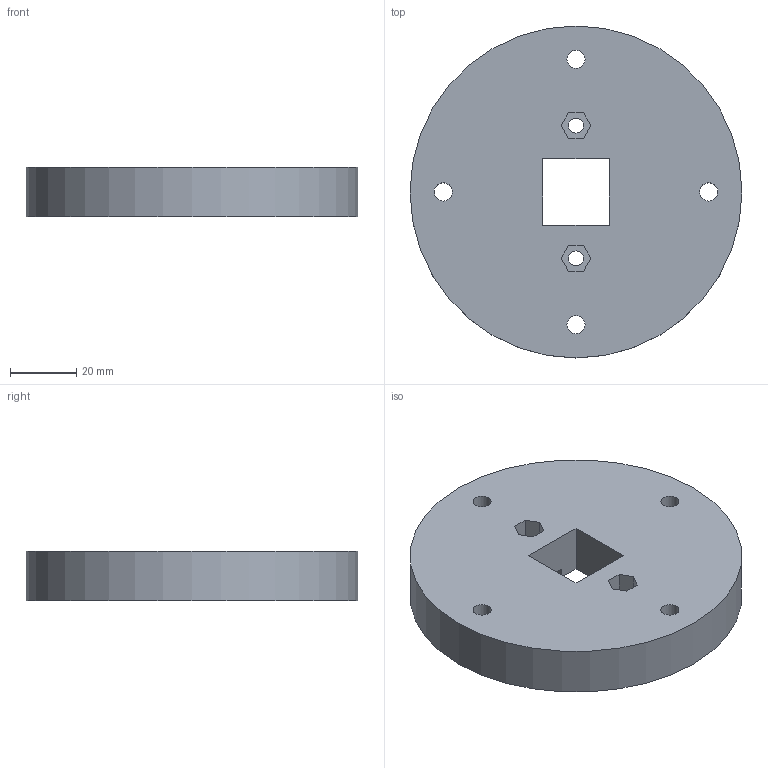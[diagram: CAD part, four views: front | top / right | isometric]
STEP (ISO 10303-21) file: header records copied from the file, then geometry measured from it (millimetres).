
FILE_DESCRIPTION(/* description */ (''),/* implementation_level */ '2;1');
FILE_NAME(/* name */ 'base_petg.stp',/* time_stamp */ '2025-09-22T16:14:21+02:00',/* author */ ('R5800u'),/* organization */ (''),/* preprocessor_version */ 'ST-DEVELOPER v20',/* originating_system */ 'Autodesk Inventor 2025',/* authorisation */ '');
FILE_SCHEMA (('AUTOMOTIVE_DESIGN { 1 0 10303 214 3 1 1 }'));
Length unit declared in the file: millimetre
Products named in the file (1): base_petg
Bounding box: 100 x 100 x 15 mm (x, y, z)
Volume: 107926.7 mm3; surface area: 22512.7 mm2
Topology: 1 solids, 1 shells, 43 faces, 105 edges, 70 vertices
Faces by surface type: plane 32, cylinder 11
Full cylindrical faces by diameter (mm): 4.5 x2, 5.5 x4, 9 x4, 100 x1
Entity records: 1332 total; most frequent: CARTESIAN_POINT 219, DIRECTION 215, ORIENTED_EDGE 210, EDGE_CURVE 105, LINE 83, VECTOR 83, VERTEX_POINT 70, AXIS2_PLACEMENT_3D 66
